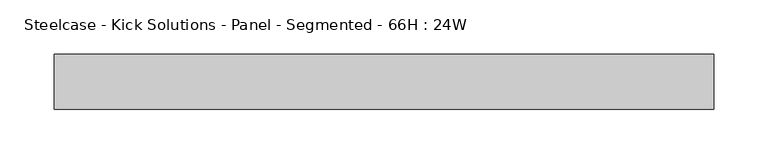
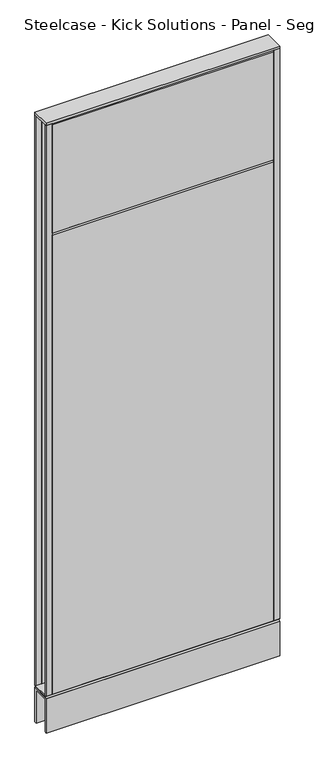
"""IFC4 building model written with IfcOpenShell, lengths in millimetres: furniture geometry, Steelcase - Kick Solutions - Panel - Segmented - 66H : 24W."""

from ifc_helpers import new_model, si_unit, frame, origin, place, context, project, spatial, polyline, outline, extrude, source, transform, mapped, element, save


def steelcase_kick_solutions_panel_segmented_66h_24w_7b63db58(model_context):
    return source(origin(), model_context, "Body", "SweptSolid", [
        extrude(outline(polyline([(1.5e-06, 101.600003), (-3.175, 101.600003), (-3.175, 1676.4), (1.5e-06, 1673.3188448), (1.5e-06, 101.600003)])), frame((15.8749996, 0.0, 0.0), z_axis=(1.0, 0.0, 0.0), x_axis=(0.0, 1.0, 0.0)), (0.0, 0.0, 1.0), 577.8500008),
        extrude(outline(polyline([(-50.8000015, 1374.6811552), (-50.8000015, 1673.3188448), (-47.625, 1676.4), (-47.625, 1371.6), (-50.8000015, 1374.6811552)])), frame((15.8749996, 0.0, 0.0), z_axis=(1.0, 0.0, 0.0), x_axis=(0.0, 1.0, 0.0)), (0.0, 0.0, 1.0), 577.8500008),
        extrude(outline(polyline([(-50.8000015, 101.600003), (-50.8000015, 1368.5188448), (-47.625, 1371.6), (-47.625, 101.600003), (-50.8000015, 101.600003)])), frame((15.8749996, 0.0, 0.0), z_axis=(1.0, 0.0, 0.0), x_axis=(0.0, 1.0, 0.0)), (0.0, 0.0, 1.0), 577.8500008),
        extrude(outline(polyline([(609.6, -3.1750015), (593.7250004, -3.1750015), (593.7250004, 0.0), (609.6, 0.0), (609.6, -3.1750015)])), frame((0.0, 0.0, 101.7169049), z_axis=(0.0, 0.0, 1.0), x_axis=(1.0, 0.0, 0.0)), (0.0, 0.0, 1.0), 1574.799997),
        extrude(outline(polyline([(15.8749996, -50.8000015), (0.0, -50.8000015), (0.0, -47.625), (15.8749996, -47.625), (15.8749996, -50.8000015)])), frame((0.0, 0.0, 101.7169049), z_axis=(0.0, 0.0, 1.0), x_axis=(1.0, 0.0, 0.0)), (0.0, 0.0, 1.0), 1574.799997),
        extrude(outline(polyline([(-50.7995075, 101.7169049), (-0.000494, 101.7169049), (-3.0583512, 98.5421458), (-47.7416503, 98.5421458), (-50.7995075, 101.7169049)])), frame((0.0, 0.0, 0.0), z_axis=(1.0, 0.0, 0.0), x_axis=(0.0, 1.0, 0.0)), (0.0, 0.0, 1.0), 609.6),
        extrude(outline(polyline([(609.6, 0.0), (609.6, -50.8000015), (0.0, -50.8000015), (0.0, 0.0), (609.6, 0.0)])), frame((0.0, 0.0, 1676.5169018), z_axis=(0.0, 0.0, 1.0), x_axis=(1.0, 0.0, 0.0)), (0.0, 0.0, 1.0), 6.35),
        extrude(outline(polyline([(15.8749996, -3.1750015), (0.0, -3.1750015), (0.0, 0.0), (15.8749996, 0.0), (15.8749996, -3.1750015)])), frame((0.0, 0.0, 101.7169049), z_axis=(0.0, 0.0, 1.0), x_axis=(1.0, 0.0, 0.0)), (0.0, 0.0, 1.0), 1574.799997),
        extrude(outline(polyline([(609.6, -50.8000015), (593.7250004, -50.8000015), (593.7250004, -47.625), (609.6, -47.625), (609.6, -50.8000015)])), frame((0.0, 0.0, 101.7169049), z_axis=(0.0, 0.0, 1.0), x_axis=(1.0, 0.0, 0.0)), (0.0, 0.0, 1.0), 1574.799997),
        extrude(outline(polyline([(-50.8000015, 95.3668927), (-47.6247484, 98.5421458), (-3.1752531, 98.5421458), (0.0, 95.3668927), (-50.8000015, 95.3668927)])), frame((0.0, 0.0, 0.0), z_axis=(1.0, 0.0, 0.0), x_axis=(0.0, 1.0, 0.0)), (0.0, 0.0, 1.0), 609.6),
        extrude(outline(polyline([(0.0, 0.0), (-5.08, 0.0), (-5.08, 90.2869018), (-45.7200015, 90.2869018), (-45.7200015, 0.0), (-50.8000015, 0.0), (-50.8000015, 95.3669018), (0.0, 95.3669018), (0.0, 0.0)])), frame((0.0, 0.0, 0.0), z_axis=(1.0, 0.0, 0.0), x_axis=(0.0, 1.0, 0.0)), (0.0, 0.0, 1.0), 609.6),
    ])


if __name__ == "__main__":
    model = new_model("IFC4")
    model_context = context("Model", 3, world=origin())
    ifc_project = project(units=[si_unit("LENGTHUNIT", "METRE", prefix="MILLI")], contexts=[model_context])
    site = spatial("IfcSite", under=ifc_project)
    building = spatial("IfcBuilding", under=site)
    placement = place(None, origin())
    steelcase_kick_solutions_panel_segmented_66h_24w_shape = steelcase_kick_solutions_panel_segmented_66h_24w_7b63db58(model_context)
    element("IfcFurniture", 1, ObjectType="Steelcase - Kick Solutions - Panel - Segmented - 66H : 24W", at=placement, inside=building, context=model_context, shape_type="MappedRepresentation", body=[
        mapped(steelcase_kick_solutions_panel_segmented_66h_24w_shape, transform((0.0, 0.0, 0.0), x_axis=(1.0, 0.0, 0.0), y_axis=(0.0, 1.0, 0.0), z_axis=(0.0, 0.0, 1.0))),
    ])
    save(model, "model.ifc")
